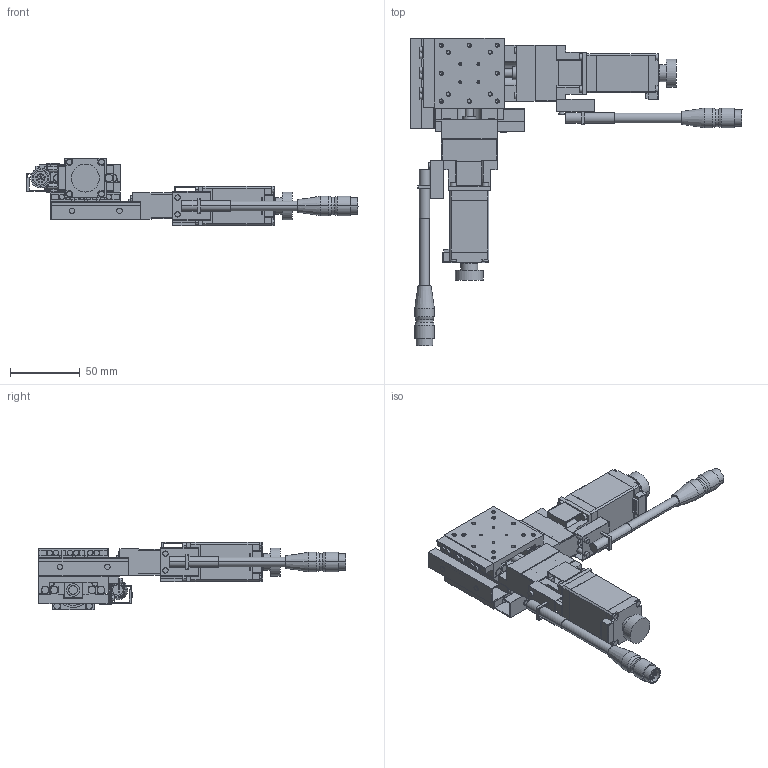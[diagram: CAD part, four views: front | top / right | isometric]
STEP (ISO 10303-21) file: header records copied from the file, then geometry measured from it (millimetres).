
FILE_DESCRIPTION(('STEP AP203'),'1');
FILE_NAME('C:/3D-Trans/3D_PMG513T-R□-D4+240122.step','2024-03-14T04:24:57',(' '),(' '),'Spatial InterOp 3D',' ',' ');
FILE_SCHEMA(('CONFIG_CONTROL_DESIGN'));
Length unit declared in the file: millimetre
Products named in the file (12): 1; 2; 3; 4; 5; 6; 7; 8; 9; 10; 11; 12
Bounding box: 237.4 x 220 x 48 mm (x, y, z)
Volume: 239046 mm3; surface area: 108995.5 mm2
Topology: 12 solids, 12 shells, 1540 faces, 3888 edges, 2472 vertices
Faces by surface type: plane 858, cylinder 516, cone 164, extrusion 2
Entity records: 47134 total; most frequent: CARTESIAN_POINT 8580, DIRECTION 8168, ORIENTED_EDGE 7696, EDGE_CURVE 3848, AXIS2_PLACEMENT_3D 2812, VECTOR 2544, LINE 2542, VERTEX_POINT 2472
